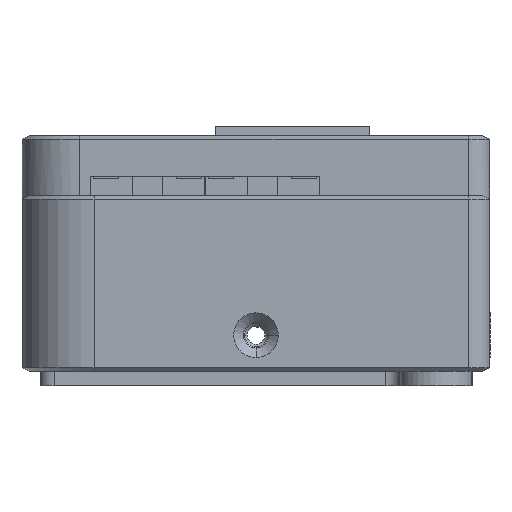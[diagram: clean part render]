
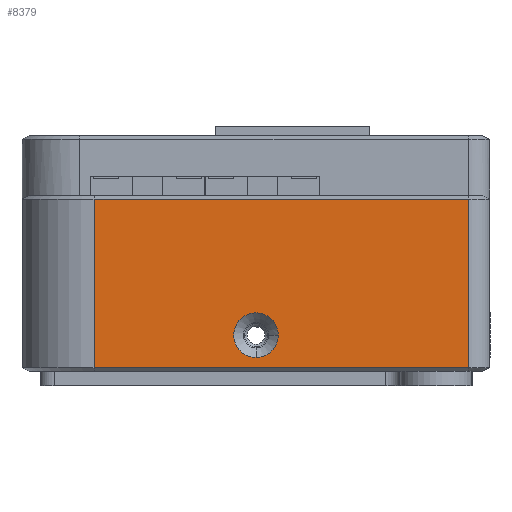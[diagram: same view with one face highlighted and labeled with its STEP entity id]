
A CAD part, left-side view. The second image highlights one B-rep face of the part: STEP entity #8379.
In plain terms, the highlighted planar face has unit normal (-1, 0, 0).
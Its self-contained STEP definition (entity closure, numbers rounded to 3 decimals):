
#280=DIRECTION('',(0.,1.,0.));
#281=VECTOR('',#280,52.);
#282=CARTESIAN_POINT('',(-60.,-30.5,
-8.3));
#283=LINE('',#282,#281);
#288=DIRECTION('',(0.,0.,-1.));
#289=VECTOR('',#288,23.4);
#290=CARTESIAN_POINT('',(-60.,-30.5,
-8.3));
#291=LINE('',#290,#289);
#418=DIRECTION('',(0.,0.,-1.));
#419=VECTOR('',#418,23.4);
#420=CARTESIAN_POINT('',(-60.,21.5,-8.3));
#421=LINE('',#420,#419);
#439=DIRECTION('',(0.,-1.,0.));
#440=VECTOR('',#439,52.);
#441=CARTESIAN_POINT('',(-60.,21.5,-31.7));
#442=LINE('',#441,#440);
#2112=CARTESIAN_POINT('',(-60.,-1.,-27.2));
#2113=DIRECTION('',(1.,0.,0.));
#2114=DIRECTION('',(0.,0.,-1.));
#2115=AXIS2_PLACEMENT_3D('',#2112,#2113,#2114);
#2121=CARTESIAN_POINT('',(-60.,-1.,-27.2));
#2122=DIRECTION('',(1.,0.,0.));
#2123=DIRECTION('',(0.,-1.,0.));
#2124=AXIS2_PLACEMENT_3D('',#2121,#2122,#2123);
#6502=CARTESIAN_POINT('',(-60.,-30.5,-8.3));
#6503=VERTEX_POINT('',#6502);
#6558=CARTESIAN_POINT('',(-60.,21.5,
-8.3));
#6559=VERTEX_POINT('',#6558);
#6560=CARTESIAN_POINT('',(-60.,-30.5,
-31.7));
#6561=VERTEX_POINT('',#6560);
#6562=CARTESIAN_POINT('',(-60.,21.5,
-31.7));
#6563=VERTEX_POINT('',#6562);
#6564=CARTESIAN_POINT('',(-60.,-1.001,-30.3));
#6565=CARTESIAN_POINT('',(-60.,-4.1,-27.199));
#6566=VERTEX_POINT('',#6564);
#6567=VERTEX_POINT('',#6565);
#8359=CARTESIAN_POINT('',(-60.,31.5,-32.2));
#8360=DIRECTION('',(-1.,0.,0.));
#8361=DIRECTION('',(0.,0.,-1.));
#8362=AXIS2_PLACEMENT_3D('',#8359,#8360,#8361);
#8363=PLANE('',#8362);
#8364=ORIENTED_EDGE('',*,*,#8352,.F.);
#8366=ORIENTED_EDGE('',*,*,#8365,.T.);
#8368=ORIENTED_EDGE('',*,*,#8367,.F.);
#8370=ORIENTED_EDGE('',*,*,#8369,.F.);
#8371=EDGE_LOOP('',(#8364,#8366,#8368,#8370));
#8372=FACE_OUTER_BOUND('',#8371,.F.);
#8374=ORIENTED_EDGE('',*,*,#8373,.F.);
#8376=ORIENTED_EDGE('',*,*,#8375,.F.);
#8377=EDGE_LOOP('',(#8374,#8376));
#8378=FACE_BOUND('',#8377,.F.);
#8379=ADVANCED_FACE('',(#8372,#8378),#8363,.T.);
#2116=CIRCLE('',#2115,3.1);
#2125=CIRCLE('',#2124,3.1);
#8352=EDGE_CURVE('',#6503,#6559,#283,.T.);
#8365=EDGE_CURVE('',#6503,#6561,#291,.T.);
#8367=EDGE_CURVE('',#6563,#6561,#442,.T.);
#8369=EDGE_CURVE('',#6559,#6563,#421,.T.);
#8373=EDGE_CURVE('',#6566,#6567,#2116,.T.);
#8375=EDGE_CURVE('',#6567,#6566,#2125,.T.);
